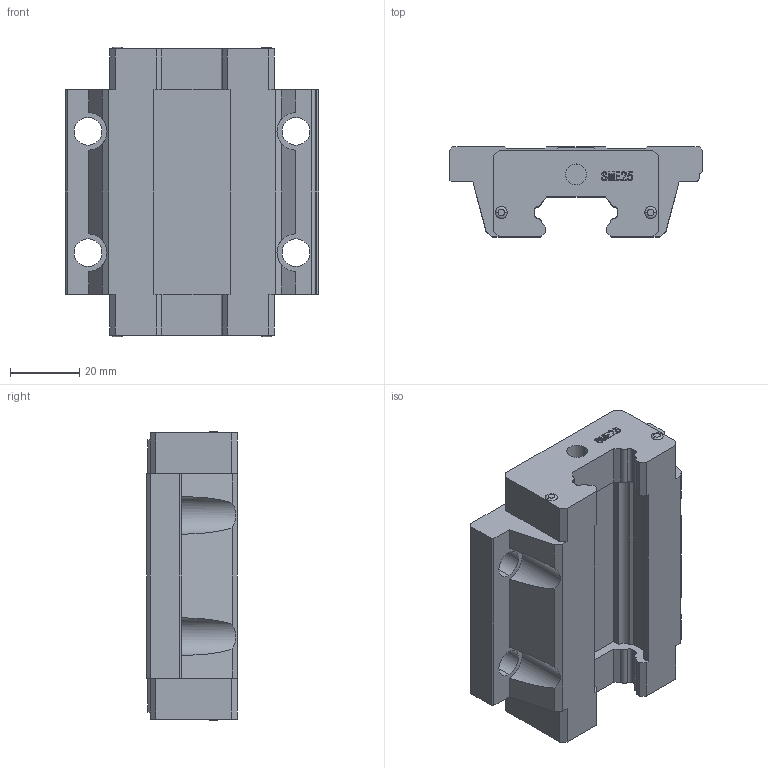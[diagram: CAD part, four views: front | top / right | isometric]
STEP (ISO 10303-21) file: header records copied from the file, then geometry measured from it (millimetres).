
FILE_DESCRIPTION (( 'STEP AP203' ), '1' );
FILE_NAME ('SME25A.stp', '2019-09-20T04:48:59', ( 'pgos' ), ( '' ), 'SwSTEP 2.0', 'SolidWorks 2014', '' );
FILE_SCHEMA (( 'CONFIG_CONTROL_DESIGN' ));
Length unit declared in the file: millimetre
Products named in the file (1): SME25A
Bounding box: 73 x 26 x 83.4 mm (x, y, z)
Volume: 91468.3 mm3; surface area: 21480.6 mm2
Topology: 1 solids, 5 shells, 226 faces, 615 edges, 410 vertices
Faces by surface type: plane 150, cylinder 49, bspline 19, torus 8
Entity records: 8756 total; most frequent: CARTESIAN_POINT 2995, ORIENTED_EDGE 1230, DIRECTION 1099, EDGE_CURVE 615, LINE 447, VECTOR 447, VERTEX_POINT 410, AXIS2_PLACEMENT_3D 326
